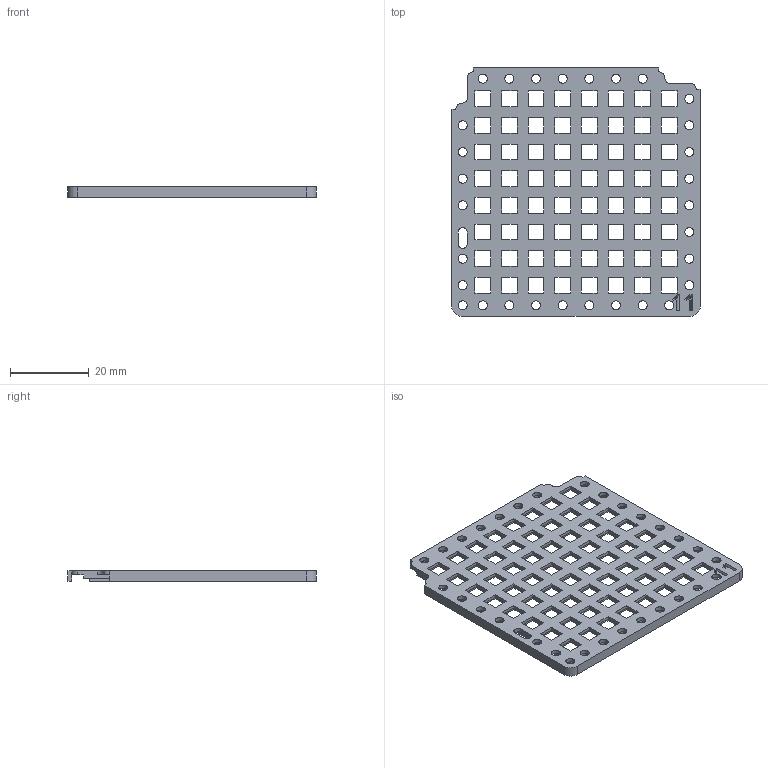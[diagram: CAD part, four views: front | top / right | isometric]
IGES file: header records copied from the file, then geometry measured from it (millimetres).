
Start section: Data from Parasolid IGES Translator 28.0.237, Copyright(c) 2006 Siemens PLM Software. All Rights Reserved.
Global section: file name: 6775d23b61694d5b682981ec.iges; native system: By Siemens PLM Incorporated; preprocessor: XPlus GENERIC/IGES 28.0.237; author: Noname; organization: Noname; date: 20250101.233940; units: metre
Bounding box: 63 x 63 x 2.6 mm (x, y, z)
Surface area: 9382.8 mm2 (no closed solid volume)
Topology: 0 solids, 0 shells, 664 faces, 3584 edges, 3567 vertices
Faces by surface type: extrusion 620, revolution 42, bspline 2
